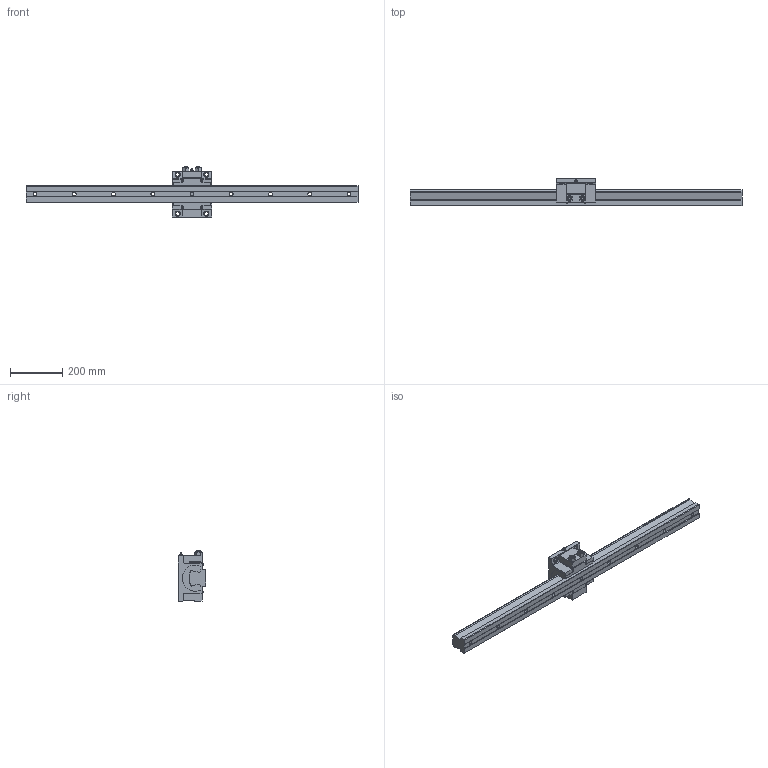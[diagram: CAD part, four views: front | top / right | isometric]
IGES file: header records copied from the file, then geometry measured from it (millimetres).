
Start section: Data from Parasolid IGES Translator 26.0.171, Copyright(c) 2006 Siemens PLM Software. All Rights Reserved.
Global section: file name: NSR70TBC1-1270L_G35_0_A-PT18_560_0_0_0.igs; native system: By Siemens PLM Incorporated; preprocessor: XPlus GENERIC/IGES 26.0.171; author: Noname; organization: Noname; date: 20240521.121242; units: millimetre
Bounding box: 1270 x 105 x 191.5 mm (x, y, z)
Surface area: 487760.1 mm2 (no closed solid volume)
Topology: 0 solids, 0 shells, 256 faces, 1347 edges, 1282 vertices
Faces by surface type: extrusion 156, revolution 100
